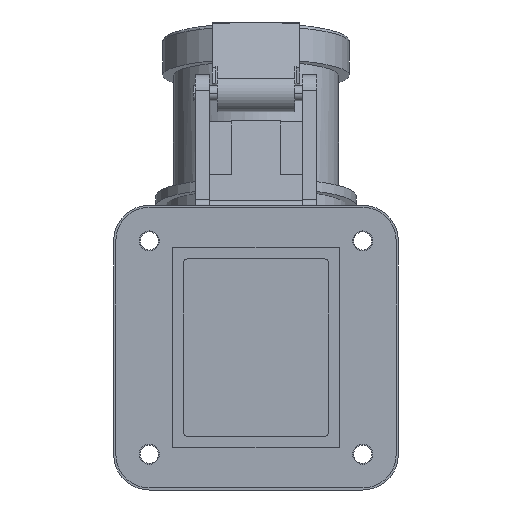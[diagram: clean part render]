
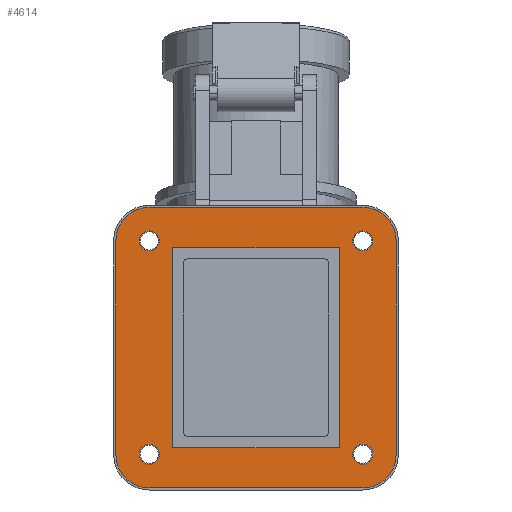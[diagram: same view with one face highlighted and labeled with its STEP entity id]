
A CAD part, front view. The second image highlights one B-rep face of the part: STEP entity #4614.
In plain terms, the highlighted planar face has unit normal (0, -1, 0).
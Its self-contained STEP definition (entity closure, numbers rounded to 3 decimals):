
#804=DIRECTION('',(0.,0.,-1.));
#805=VECTOR('',#804,64.1);
#806=CARTESIAN_POINT('',(42.05,-2.,32.05));
#807=LINE('729',#806,#805);
#808=DIRECTION('',(-1.,0.,0.));
#809=VECTOR('',#808,64.1);
#810=CARTESIAN_POINT('',(32.05,-2.,-42.05));
#811=LINE('726',#810,#809);
#812=DIRECTION('',(0.,0.,1.));
#813=VECTOR('',#812,64.1);
#814=CARTESIAN_POINT('',(-42.05,-2.,-32.05));
#815=LINE('727',#814,#813);
#816=DIRECTION('',(1.,0.,0.));
#817=VECTOR('',#816,64.1);
#818=CARTESIAN_POINT('',(-32.05,-2.,42.05));
#819=LINE('728',#818,#817);
#820=CARTESIAN_POINT('',(32.,-2.,-32.));
#821=DIRECTION('',(0.,-1.,0.));
#822=DIRECTION('',(1.,0.,0.));
#823=AXIS2_PLACEMENT_3D('',#820,#821,#822);
#825=CARTESIAN_POINT('',(32.,-2.,-32.));
#826=DIRECTION('',(0.,-1.,0.));
#827=DIRECTION('',(-1.,0.,0.));
#828=AXIS2_PLACEMENT_3D('',#825,#826,#827);
#830=CARTESIAN_POINT('',(-32.,-2.,-32.));
#831=DIRECTION('',(0.,-1.,0.));
#832=DIRECTION('',(1.,0.,0.));
#833=AXIS2_PLACEMENT_3D('',#830,#831,#832);
#835=CARTESIAN_POINT('',(-32.,-2.,-32.));
#836=DIRECTION('',(0.,-1.,0.));
#837=DIRECTION('',(-1.,0.,0.));
#838=AXIS2_PLACEMENT_3D('',#835,#836,#837);
#840=CARTESIAN_POINT('',(32.,-2.,32.));
#841=DIRECTION('',(0.,-1.,0.));
#842=DIRECTION('',(1.,0.,0.));
#843=AXIS2_PLACEMENT_3D('',#840,#841,#842);
#845=CARTESIAN_POINT('',(32.,-2.,32.));
#846=DIRECTION('',(0.,-1.,0.));
#847=DIRECTION('',(-1.,0.,0.));
#848=AXIS2_PLACEMENT_3D('',#845,#846,#847);
#850=CARTESIAN_POINT('',(-32.,-2.,32.));
#851=DIRECTION('',(0.,-1.,0.));
#852=DIRECTION('',(1.,0.,0.));
#853=AXIS2_PLACEMENT_3D('',#850,#851,#852);
#855=CARTESIAN_POINT('',(-32.,-2.,32.));
#856=DIRECTION('',(0.,-1.,0.));
#857=DIRECTION('',(-1.,0.,0.));
#858=AXIS2_PLACEMENT_3D('',#855,#856,#857);
#860=DIRECTION('',(0.,0.,1.));
#861=VECTOR('',#860,60.);
#862=CARTESIAN_POINT('',(25.,-2.,-30.));
#863=LINE('718',#862,#861);
#864=DIRECTION('',(-1.,0.,0.));
#865=VECTOR('',#864,50.);
#866=CARTESIAN_POINT('',(25.,-2.,30.));
#867=LINE('719',#866,#865);
#868=DIRECTION('',(0.,0.,-1.));
#869=VECTOR('',#868,60.);
#870=CARTESIAN_POINT('',(-25.,-2.,30.));
#871=LINE('720',#870,#869);
#872=DIRECTION('',(1.,0.,0.));
#873=VECTOR('',#872,50.);
#874=CARTESIAN_POINT('',(-25.,-2.,-30.));
#875=LINE('721',#874,#873);
#880=CARTESIAN_POINT('',(32.05,-2.,32.05));
#881=DIRECTION('',(0.,-1.,0.));
#882=DIRECTION('',(1.,0.,0.));
#883=AXIS2_PLACEMENT_3D('',#880,#881,#882);
#893=CARTESIAN_POINT('',(32.05,-2.,-32.05));
#894=DIRECTION('',(0.,-1.,0.));
#895=DIRECTION('',(0.,0.,-1.));
#896=AXIS2_PLACEMENT_3D('',#893,#894,#895);
#906=CARTESIAN_POINT('',(-32.05,-2.,-32.05));
#907=DIRECTION('',(0.,-1.,0.));
#908=DIRECTION('',(-1.,0.,0.));
#909=AXIS2_PLACEMENT_3D('',#906,#907,#908);
#919=CARTESIAN_POINT('',(-32.05,-2.,32.05));
#920=DIRECTION('',(0.,-1.,0.));
#921=DIRECTION('',(0.,0.,1.));
#922=AXIS2_PLACEMENT_3D('',#919,#920,#921);
#3419=CARTESIAN_POINT('',(35.,-2.,-32.));
#3420=CARTESIAN_POINT('',(29.,-2.,-32.));
#3421=VERTEX_POINT('',#3419);
#3422=VERTEX_POINT('',#3420);
#3423=CARTESIAN_POINT('',(-29.,-2.,-32.));
#3424=CARTESIAN_POINT('',(-35.,-2.,-32.));
#3425=VERTEX_POINT('',#3423);
#3426=VERTEX_POINT('',#3424);
#3427=CARTESIAN_POINT('',(35.,-2.,32.));
#3428=CARTESIAN_POINT('',(29.,-2.,32.));
#3429=VERTEX_POINT('',#3427);
#3430=VERTEX_POINT('',#3428);
#3431=CARTESIAN_POINT('',(-29.,-2.,32.));
#3432=CARTESIAN_POINT('',(-35.,-2.,32.));
#3433=VERTEX_POINT('',#3431);
#3434=VERTEX_POINT('',#3432);
#3435=CARTESIAN_POINT('',(25.,-2.,-30.));
#3436=CARTESIAN_POINT('',(25.,-2.,30.));
#3437=VERTEX_POINT('',#3435);
#3438=VERTEX_POINT('',#3436);
#3439=CARTESIAN_POINT('',(-25.,-2.,30.));
#3440=VERTEX_POINT('',#3439);
#3441=CARTESIAN_POINT('',(-25.,-2.,-30.));
#3442=VERTEX_POINT('',#3441);
#3443=CARTESIAN_POINT('',(42.05,-2.,32.05));
#3444=CARTESIAN_POINT('',(32.05,-2.,42.05));
#3445=VERTEX_POINT('',#3443);
#3446=VERTEX_POINT('',#3444);
#3447=CARTESIAN_POINT('',(-32.05,-2.,42.05));
#3448=CARTESIAN_POINT('',(-42.05,-2.,32.05));
#3449=VERTEX_POINT('',#3447);
#3450=VERTEX_POINT('',#3448);
#3451=CARTESIAN_POINT('',(32.05,-2.,-42.05));
#3452=CARTESIAN_POINT('',(42.05,-2.,-32.05));
#3453=VERTEX_POINT('',#3451);
#3454=VERTEX_POINT('',#3452);
#3455=CARTESIAN_POINT('',(-42.05,-2.,-32.05));
#3456=CARTESIAN_POINT('',(-32.05,-2.,-42.05));
#3457=VERTEX_POINT('',#3455);
#3458=VERTEX_POINT('',#3456);
#4559=CARTESIAN_POINT('',(0.,-2.,0.));
#4560=DIRECTION('',(0.,1.,0.));
#4561=DIRECTION('',(1.,0.,0.));
#4562=AXIS2_PLACEMENT_3D('',#4559,#4560,#4561);
#4563=PLANE('203',#4562);
#4565=ORIENTED_EDGE('722',*,*,#4564,.F.);
#4567=ORIENTED_EDGE('729',*,*,#4566,.T.);
#4569=ORIENTED_EDGE('724',*,*,#4568,.F.);
#4571=ORIENTED_EDGE('726',*,*,#4570,.T.);
#4573=ORIENTED_EDGE('725',*,*,#4572,.F.);
#4575=ORIENTED_EDGE('727',*,*,#4574,.T.);
#4577=ORIENTED_EDGE('723',*,*,#4576,.F.);
#4579=ORIENTED_EDGE('728',*,*,#4578,.T.);
#4580=EDGE_LOOP('203',(#4565,#4567,#4569,#4571,#4573,#4575,#4577,#4579));
#4581=FACE_OUTER_BOUND('203',#4580,.F.);
#4582=ORIENTED_EDGE('710',*,*,#4525,.T.);
#4583=ORIENTED_EDGE('711',*,*,#4546,.T.);
#4584=EDGE_LOOP('203',(#4582,#4583));
#4585=FACE_BOUND('203',#4584,.F.);
#4587=ORIENTED_EDGE('712',*,*,#4586,.T.);
#4589=ORIENTED_EDGE('713',*,*,#4588,.T.);
#4590=EDGE_LOOP('203',(#4587,#4589));
#4591=FACE_BOUND('203',#4590,.F.);
#4593=ORIENTED_EDGE('714',*,*,#4592,.T.);
#4595=ORIENTED_EDGE('715',*,*,#4594,.T.);
#4596=EDGE_LOOP('203',(#4593,#4595));
#4597=FACE_BOUND('203',#4596,.F.);
#4599=ORIENTED_EDGE('716',*,*,#4598,.T.);
#4601=ORIENTED_EDGE('717',*,*,#4600,.T.);
#4602=EDGE_LOOP('203',(#4599,#4601));
#4603=FACE_BOUND('203',#4602,.F.);
#4605=ORIENTED_EDGE('718',*,*,#4604,.T.);
#4607=ORIENTED_EDGE('719',*,*,#4606,.T.);
#4609=ORIENTED_EDGE('720',*,*,#4608,.T.);
#4611=ORIENTED_EDGE('721',*,*,#4610,.T.);
#4612=EDGE_LOOP('203',(#4605,#4607,#4609,#4611));
#4613=FACE_BOUND('203',#4612,.F.);
#824=CIRCLE('710',#823,3.);
#829=CIRCLE('711',#828,3.);
#834=CIRCLE('712',#833,3.);
#839=CIRCLE('713',#838,3.);
#844=CIRCLE('714',#843,3.);
#849=CIRCLE('715',#848,3.);
#854=CIRCLE('716',#853,3.);
#859=CIRCLE('717',#858,3.);
#884=CIRCLE('722',#883,10.);
#897=CIRCLE('724',#896,10.);
#910=CIRCLE('725',#909,10.);
#923=CIRCLE('723',#922,10.);
#4525=EDGE_CURVE('710',#3421,#3422,#824,.T.);
#4546=EDGE_CURVE('711',#3422,#3421,#829,.T.);
#4564=EDGE_CURVE('722',#3445,#3446,#884,.T.);
#4566=EDGE_CURVE('729',#3445,#3454,#807,.T.);
#4568=EDGE_CURVE('724',#3453,#3454,#897,.T.);
#4570=EDGE_CURVE('726',#3453,#3458,#811,.T.);
#4572=EDGE_CURVE('725',#3457,#3458,#910,.T.);
#4574=EDGE_CURVE('727',#3457,#3450,#815,.T.);
#4576=EDGE_CURVE('723',#3449,#3450,#923,.T.);
#4578=EDGE_CURVE('728',#3449,#3446,#819,.T.);
#4586=EDGE_CURVE('712',#3425,#3426,#834,.T.);
#4588=EDGE_CURVE('713',#3426,#3425,#839,.T.);
#4592=EDGE_CURVE('714',#3429,#3430,#844,.T.);
#4594=EDGE_CURVE('715',#3430,#3429,#849,.T.);
#4598=EDGE_CURVE('716',#3433,#3434,#854,.T.);
#4600=EDGE_CURVE('717',#3434,#3433,#859,.T.);
#4604=EDGE_CURVE('718',#3437,#3438,#863,.T.);
#4606=EDGE_CURVE('719',#3438,#3440,#867,.T.);
#4608=EDGE_CURVE('720',#3440,#3442,#871,.T.);
#4610=EDGE_CURVE('721',#3442,#3437,#875,.T.);
#4614=ADVANCED_FACE('203',(#4581,#4585,#4591,#4597,#4603,#4613),#4563,.F.);
